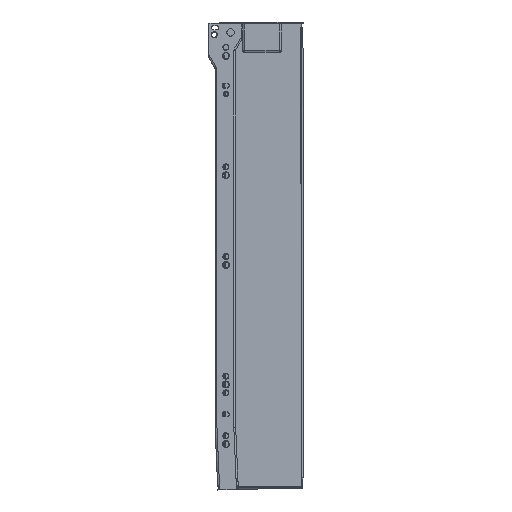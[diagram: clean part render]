
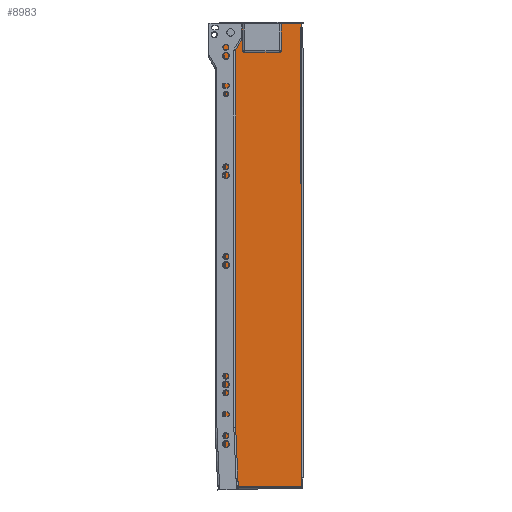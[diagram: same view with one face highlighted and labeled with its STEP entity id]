
A CAD part, left-side view. The second image highlights one B-rep face of the part: STEP entity #8983.
In plain terms, the highlighted planar face has unit normal (-1, 0, 0) as drawn and (0, 0, -1) by its records, which use the part's own axes.
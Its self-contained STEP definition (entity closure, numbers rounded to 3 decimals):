
#724=LINE('',#14455,#1434);
#728=LINE('',#14473,#1438);
#729=LINE('',#14475,#1439);
#730=LINE('',#14477,#1440);
#731=LINE('',#14479,#1441);
#732=LINE('',#14481,#1442);
#733=LINE('',#14485,#1443);
#734=LINE('',#14488,#1444);
#1434=VECTOR('',#11725,85.928);
#1438=VECTOR('',#11735,496.2);
#1439=VECTOR('',#11736,84.034);
#1440=VECTOR('',#11737,55.801);
#1441=VECTOR('',#11738,419.152);
#1442=VECTOR('',#11739,1.6);
#1443=VECTOR('',#11742,1.3);
#1444=VECTOR('',#11745,15.5);
#1855=PLANE('',#9780);
#2105=FACE_BOUND('',#3106,.T.);
#2471=FACE_OUTER_BOUND('',#3105,.T.);
#3105=EDGE_LOOP('',(#7146,#7147,#7148,#7149,#7150,#7151,#7152,#7153,#7154,
#7155,#7156));
#3106=EDGE_LOOP('',(#7157));
#3648=CIRCLE('',#9779,2.);
#3649=CIRCLE('',#9781,1.2);
#3650=CIRCLE('',#9782,2.);
#3651=CIRCLE('',#9783,3.5);
#4292=VERTEX_POINT('',#14449);
#4293=VERTEX_POINT('',#14454);
#4295=VERTEX_POINT('',#14467);
#4296=VERTEX_POINT('',#14472);
#4297=VERTEX_POINT('',#14474);
#4298=VERTEX_POINT('',#14476);
#4299=VERTEX_POINT('',#14478);
#4300=VERTEX_POINT('',#14480);
#4301=VERTEX_POINT('',#14482);
#4302=VERTEX_POINT('',#14484);
#4303=VERTEX_POINT('',#14486);
#4304=VERTEX_POINT('',#14489);
#5310=EDGE_CURVE('',#4292,#4293,#724,.T.);
#5313=EDGE_CURVE('',#4293,#4295,#3648,.T.);
#5316=EDGE_CURVE('',#4296,#4292,#728,.T.);
#5317=EDGE_CURVE('',#4296,#4297,#729,.T.);
#5318=EDGE_CURVE('',#4298,#4297,#730,.T.);
#5319=EDGE_CURVE('',#4299,#4298,#731,.T.);
#5320=EDGE_CURVE('',#4299,#4300,#732,.T.);
#5321=EDGE_CURVE('',#4301,#4300,#3649,.T.);
#5322=EDGE_CURVE('',#4302,#4301,#733,.T.);
#5323=EDGE_CURVE('',#4303,#4302,#3650,.T.);
#5324=EDGE_CURVE('',#4295,#4303,#734,.T.);
#5325=EDGE_CURVE('',#4304,#4304,#3651,.T.);
#7146=ORIENTED_EDGE('',*,*,#5310,.F.);
#7147=ORIENTED_EDGE('',*,*,#5316,.F.);
#7148=ORIENTED_EDGE('',*,*,#5317,.T.);
#7149=ORIENTED_EDGE('',*,*,#5318,.F.);
#7150=ORIENTED_EDGE('',*,*,#5319,.F.);
#7151=ORIENTED_EDGE('',*,*,#5320,.T.);
#7152=ORIENTED_EDGE('',*,*,#5321,.F.);
#7153=ORIENTED_EDGE('',*,*,#5322,.F.);
#7154=ORIENTED_EDGE('',*,*,#5323,.F.);
#7155=ORIENTED_EDGE('',*,*,#5324,.F.);
#7156=ORIENTED_EDGE('',*,*,#5313,.F.);
#7157=ORIENTED_EDGE('',*,*,#5325,.T.);
#8983=ADVANCED_FACE('',(#2471,#2105),#1855,.F.);
#9779=AXIS2_PLACEMENT_3D('',#14468,#11729,#11730);
#9780=AXIS2_PLACEMENT_3D('',#14471,#11733,#11734);
#9781=AXIS2_PLACEMENT_3D('',#14483,#11740,#11741);
#9782=AXIS2_PLACEMENT_3D('',#14487,#11743,#11744);
#9783=AXIS2_PLACEMENT_3D('',#14490,#11746,#11747);
#11725=DIRECTION('',(0.,1.,0.));
#11729=DIRECTION('center_axis',(0.,0.,1.));
#11730=DIRECTION('ref_axis',(1.,0.,0.));
#11733=DIRECTION('center_axis',(0.,0.,1.));
#11734=DIRECTION('ref_axis',(1.,0.,0.));
#11735=DIRECTION('',(1.,0.,0.));
#11736=DIRECTION('',(0.,1.,0.));
#11737=DIRECTION('',(-0.999,0.044,0.));
#11738=DIRECTION('',(-1.,0.,0.));
#11739=DIRECTION('',(0.,1.,0.));
#11740=DIRECTION('center_axis',(0.,0.,-1.));
#11741=DIRECTION('ref_axis',(1.,0.,0.));
#11742=DIRECTION('',(0.,-1.,0.));
#11743=DIRECTION('center_axis',(0.,0.,1.));
#11744=DIRECTION('ref_axis',(0.,1.,0.));
#11745=DIRECTION('',(-1.,0.,0.));
#11746=DIRECTION('center_axis',(0.,0.,1.));
#11747=DIRECTION('ref_axis',(-1.,0.,0.));
#14449=CARTESIAN_POINT('',(9.4,-79.,0.));
#14454=CARTESIAN_POINT('',(9.4,6.928,0.));
#14455=CARTESIAN_POINT('',(9.4,-17.982,0.));
#14467=CARTESIAN_POINT('',(8.,7.5,0.));
#14468=CARTESIAN_POINT('Origin',(8.,5.5,0.));
#14471=CARTESIAN_POINT('Origin',(-239.813,-37.664,0.));
#14472=CARTESIAN_POINT('',(-486.8,-79.,0.));
#14473=CARTESIAN_POINT('',(-364.907,-79.,0.));
#14474=CARTESIAN_POINT('',(-486.8,5.034,0.));
#14475=CARTESIAN_POINT('',(-486.8,-15.044,0.));
#14476=CARTESIAN_POINT('',(-431.052,2.6,0.));
#14477=CARTESIAN_POINT('',(-334.751,-1.605,0.));
#14478=CARTESIAN_POINT('',(-11.9,2.6,0.));
#14479=CARTESIAN_POINT('',(-125.857,2.6,0.));
#14480=CARTESIAN_POINT('',(-11.9,4.2,0.));
#14481=CARTESIAN_POINT('',(-11.9,-16.732,0.));
#14482=CARTESIAN_POINT('',(-9.5,4.2,0.));
#14483=CARTESIAN_POINT('Origin',(-10.7,4.2,0.));
#14484=CARTESIAN_POINT('',(-9.5,5.5,0.));
#14485=CARTESIAN_POINT('',(-9.5,5.5,0.));
#14486=CARTESIAN_POINT('',(-7.5,7.5,0.));
#14487=CARTESIAN_POINT('Origin',(-7.5,5.5,0.));
#14488=CARTESIAN_POINT('',(8.,7.5,0.));
#14489=CARTESIAN_POINT('',(3.5,0.,0.));
#14490=CARTESIAN_POINT('Origin',(0.,0.,0.));
